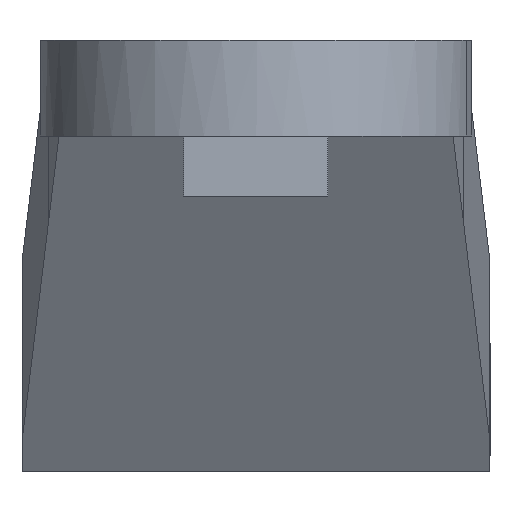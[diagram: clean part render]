
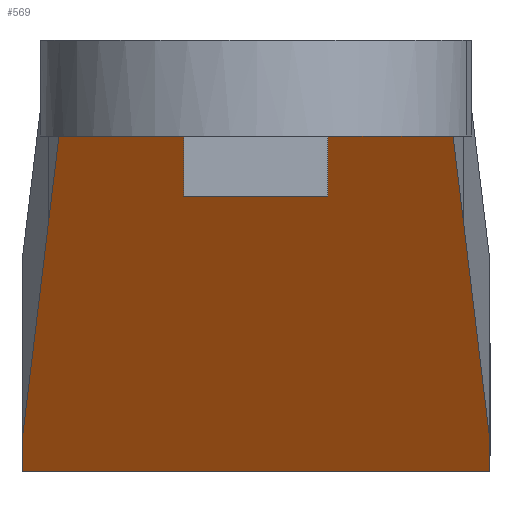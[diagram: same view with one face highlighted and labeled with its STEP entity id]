
A CAD part, left-side view. The second image highlights one B-rep face of the part: STEP entity #569.
In plain terms, the highlighted planar face has unit normal (-0.847, 0, -0.532).
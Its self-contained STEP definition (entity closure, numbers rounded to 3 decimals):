
#13 = ORIENTED_EDGE ( 'NONE', *, *, #621, .T. ) ;
#16 = EDGE_CURVE ( 'NONE', #471, #864, #160, .T. ) ;
#19 = VERTEX_POINT ( 'NONE', #680 ) ;
#39 = CARTESIAN_POINT ( 'NONE',  ( 21.5, 9.75, -12.744 ) ) ;
#41 = B_SPLINE_CURVE_WITH_KNOTS ( 'NONE', 3,
 ( #780, #574, #313, #411 ),
 .UNSPECIFIED., .F., .F.,
 ( 4, 4 ),
 ( 0., 1. ),
 .UNSPECIFIED. ) ;
#61 = CARTESIAN_POINT ( 'NONE',  ( 14.975, 8.495, -2.349 ) ) ;
#77 = CARTESIAN_POINT ( 'NONE',  ( 15.712, 8.637, -3.524 ) ) ;
#139 = CARTESIAN_POINT ( 'NONE',  ( 13.5, -2.737, 0. ) ) ;
#149 = EDGE_CURVE ( 'NONE', #690, #471, #41, .T. ) ;
#152 = CARTESIAN_POINT ( 'NONE',  ( 13.5, 2.737, 0. ) ) ;
#160 = B_SPLINE_CURVE_WITH_KNOTS ( 'NONE', 3,
 ( #1046, #400, #1148, #1051 ),
 .UNSPECIFIED., .F., .F.,
 ( 4, 4 ),
 ( 0., 1. ),
 .UNSPECIFIED. ) ;
#167 = CARTESIAN_POINT ( 'NONE',  ( 22.288, -9.75, -14. ) ) ;
#213 = B_SPLINE_CURVE_WITH_KNOTS ( 'NONE', 3,
 ( #998, #717, #61, #349 ),
 .UNSPECIFIED., .F., .F.,
 ( 4, 4 ),
 ( 0., 1. ),
 .UNSPECIFIED. ) ;
#232 = B_SPLINE_CURVE_WITH_KNOTS ( 'NONE', 3,
 ( #77, #547, #1209, #443 ),
 .UNSPECIFIED., .F., .F.,
 ( 4, 4 ),
 ( 0., 1. ),
 .UNSPECIFIED. ) ;
#248 = B_SPLINE_CURVE_WITH_KNOTS ( 'NONE', 3,
 ( #805, #1002, #1175, #1088 ),
 .UNSPECIFIED., .F., .F.,
 ( 4, 4 ),
 ( 0., 1. ),
 .UNSPECIFIED. ) ;
#271 = B_SPLINE_CURVE_WITH_KNOTS ( 'NONE', 3,
 ( #704, #139, #152, #984 ),
 .UNSPECIFIED., .F., .F.,
 ( 4, 4 ),
 ( 0., 1. ),
 .UNSPECIFIED. ) ;
#295 = AXIS2_PLACEMENT_3D ( 'NONE', #884, #793, #436 ) ;
#301 = B_SPLINE_CURVE_WITH_KNOTS ( 'NONE', 3,
 ( #940, #953, #932, #946 ),
 .UNSPECIFIED., .F., .F.,
 ( 4, 4 ),
 ( 0., 1. ),
 .UNSPECIFIED. ) ;
#306 = CARTESIAN_POINT ( 'NONE',  ( 15.712, -8.637, -3.524 ) ) ;
#313 = CARTESIAN_POINT ( 'NONE',  ( 21.763, -9.75, -13.163 ) ) ;
#330 = EDGE_CURVE ( 'NONE', #855, #690, #248, .T. ) ;
#349 = CARTESIAN_POINT ( 'NONE',  ( 15.712, 8.637, -3.524 ) ) ;
#395 = ORIENTED_EDGE ( 'NONE', *, *, #149, .T. ) ;
#400 = CARTESIAN_POINT ( 'NONE',  ( 19.571, -9.379, -9.671 ) ) ;
#411 = CARTESIAN_POINT ( 'NONE',  ( 21.5, -9.75, -12.744 ) ) ;
#436 = DIRECTION ( 'NONE',  ( -0.532, 0., 0.847 ) ) ;
#443 = CARTESIAN_POINT ( 'NONE',  ( 21.5, 9.75, -12.744 ) ) ;
#471 = VERTEX_POINT ( 'NONE', #537 ) ;
#504 = CARTESIAN_POINT ( 'NONE',  ( 21.763, 9.75, -13.163 ) ) ;
#521 = CARTESIAN_POINT ( 'NONE',  ( 15.712, 8.637, -3.524 ) ) ;
#527 = CARTESIAN_POINT ( 'NONE',  ( 21.5, 9.75, -12.744 ) ) ;
#537 = CARTESIAN_POINT ( 'NONE',  ( 21.5, -9.75, -12.744 ) ) ;
#547 = CARTESIAN_POINT ( 'NONE',  ( 17.641, 9.008, -6.597 ) ) ;
#569 = ADVANCED_FACE ( 'NONE', ( #1130 ), #845, .T. ) ;
#574 = CARTESIAN_POINT ( 'NONE',  ( 22.025, -9.75, -13.581 ) ) ;
#597 = B_SPLINE_CURVE_WITH_KNOTS ( 'NONE', 3,
 ( #39, #504, #787, #1060 ),
 .UNSPECIFIED., .F., .F.,
 ( 4, 4 ),
 ( 0., 1. ),
 .UNSPECIFIED. ) ;
#598 = ORIENTED_EDGE ( 'NONE', *, *, #330, .T. ) ;
#612 = CARTESIAN_POINT ( 'NONE',  ( 22.288, 9.75, -14. ) ) ;
#621 = EDGE_CURVE ( 'NONE', #1001, #19, #271, .T. ) ;
#638 = VERTEX_POINT ( 'NONE', #527 ) ;
#648 = EDGE_CURVE ( 'NONE', #19, #1120, #213, .T. ) ;
#680 = CARTESIAN_POINT ( 'NONE',  ( 13.5, 8.212, 0. ) ) ;
#690 = VERTEX_POINT ( 'NONE', #167 ) ;
#704 = CARTESIAN_POINT ( 'NONE',  ( 13.5, -8.212, 0. ) ) ;
#717 = CARTESIAN_POINT ( 'NONE',  ( 14.237, 8.353, -1.175 ) ) ;
#780 = CARTESIAN_POINT ( 'NONE',  ( 22.288, -9.75, -14. ) ) ;
#787 = CARTESIAN_POINT ( 'NONE',  ( 22.025, 9.75, -13.581 ) ) ;
#793 = DIRECTION ( 'NONE',  ( -0.847, 0., -0.532 ) ) ;
#805 = CARTESIAN_POINT ( 'NONE',  ( 22.288, 9.75, -14. ) ) ;
#845 = PLANE ( 'NONE',  #295 ) ;
#855 = VERTEX_POINT ( 'NONE', #612 ) ;
#864 = VERTEX_POINT ( 'NONE', #306 ) ;
#869 = ORIENTED_EDGE ( 'NONE', *, *, #1144, .T. ) ;
#884 = CARTESIAN_POINT ( 'NONE',  ( 17.894, 15., -7. ) ) ;
#886 = ORIENTED_EDGE ( 'NONE', *, *, #648, .T. ) ;
#911 = CARTESIAN_POINT ( 'NONE',  ( 13.5, -8.212, 0. ) ) ;
#932 = CARTESIAN_POINT ( 'NONE',  ( 14.975, -8.495, -2.349 ) ) ;
#940 = CARTESIAN_POINT ( 'NONE',  ( 13.5, -8.212, 0. ) ) ;
#946 = CARTESIAN_POINT ( 'NONE',  ( 15.712, -8.637, -3.524 ) ) ;
#951 = EDGE_CURVE ( 'NONE', #1120, #638, #232, .T. ) ;
#953 = CARTESIAN_POINT ( 'NONE',  ( 14.237, -8.353, -1.175 ) ) ;
#968 = ORIENTED_EDGE ( 'NONE', *, *, #951, .T. ) ;
#984 = CARTESIAN_POINT ( 'NONE',  ( 13.5, 8.212, 0. ) ) ;
#994 = ORIENTED_EDGE ( 'NONE', *, *, #1025, .F. ) ;
#998 = CARTESIAN_POINT ( 'NONE',  ( 13.5, 8.212, 0. ) ) ;
#1001 = VERTEX_POINT ( 'NONE', #911 ) ;
#1002 = CARTESIAN_POINT ( 'NONE',  ( 22.288, 3.25, -14. ) ) ;
#1025 = EDGE_CURVE ( 'NONE', #1001, #864, #301, .T. ) ;
#1027 = ORIENTED_EDGE ( 'NONE', *, *, #16, .T. ) ;
#1046 = CARTESIAN_POINT ( 'NONE',  ( 21.5, -9.75, -12.744 ) ) ;
#1051 = CARTESIAN_POINT ( 'NONE',  ( 15.712, -8.637, -3.524 ) ) ;
#1060 = CARTESIAN_POINT ( 'NONE',  ( 22.288, 9.75, -14. ) ) ;
#1088 = CARTESIAN_POINT ( 'NONE',  ( 22.288, -9.75, -14. ) ) ;
#1120 = VERTEX_POINT ( 'NONE', #521 ) ;
#1127 = EDGE_LOOP ( 'NONE', ( #869, #598, #395, #1027, #994, #13, #886, #968 ) ) ;
#1130 = FACE_OUTER_BOUND ( 'NONE', #1127, .T. ) ;
#1144 = EDGE_CURVE ( 'NONE', #638, #855, #597, .T. ) ;
#1148 = CARTESIAN_POINT ( 'NONE',  ( 17.641, -9.008, -6.597 ) ) ;
#1175 = CARTESIAN_POINT ( 'NONE',  ( 22.288, -3.25, -14. ) ) ;
#1209 = CARTESIAN_POINT ( 'NONE',  ( 19.571, 9.379, -9.671 ) ) ;
